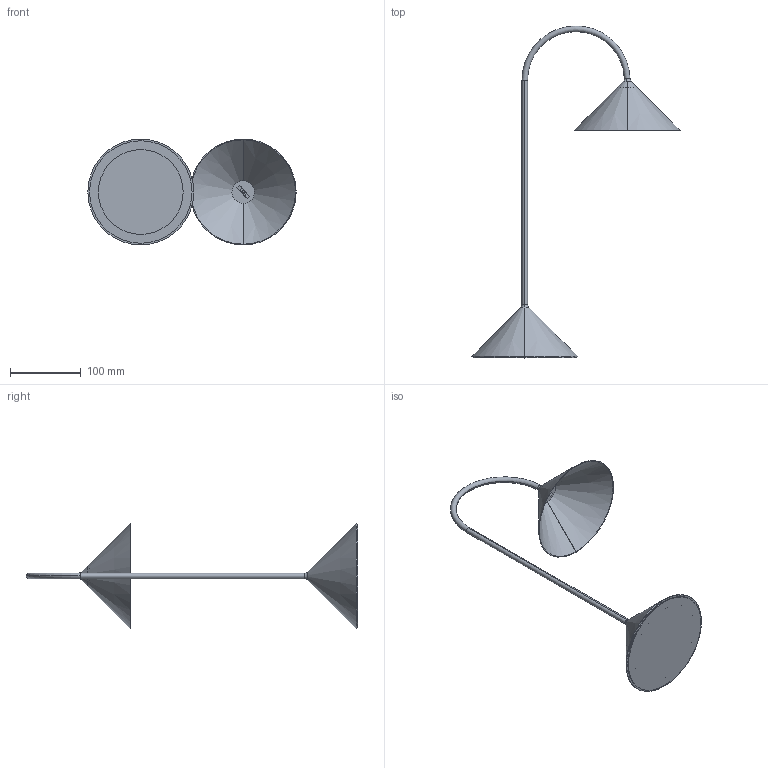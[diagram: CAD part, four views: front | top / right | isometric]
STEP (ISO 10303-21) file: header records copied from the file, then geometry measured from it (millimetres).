
FILE_DESCRIPTION (( 'STEP AP214' ), '1' );
FILE_NAME ('11 54046 Grasp Portable .STEP', '2023-11-24T13:11:47', ( '' ), ( '' ), 'SwSTEP 2.0', 'SolidWorks 2022', '' );
FILE_SCHEMA (( 'AUTOMOTIVE_DESIGN' ));
Length unit declared in the file: millimetre
Products named in the file (5): Fabric table protector Ø145; 18 54453 FP 2023U001 Grasp frame small; 21 54138; 11 54046 Grasp Portable ; M4 rod
Assembly tree (4 placements, depth 2):
  11 54046 Grasp Portable 
    18 54453 FP 2023U001 Grasp frame small
    Fabric table protector Ø145
    M4 rod
    21 54138
Bounding box: 295 x 469.99 x 150 mm (x, y, z)
Volume: 305447.7 mm3; surface area: 147382.7 mm2
Topology: 4 solids, 4 shells, 127 faces, 329 edges, 216 vertices
Faces by surface type: cylinder 81, plane 17, cone 14, bspline 11, torus 4
Entity records: 12213 total; most frequent: CARTESIAN_POINT 9325, ORIENTED_EDGE 658, DIRECTION 458, EDGE_CURVE 329, VERTEX_POINT 216, AXIS2_PLACEMENT_3D 180, EDGE_LOOP 133, FACE_OUTER_BOUND 127
